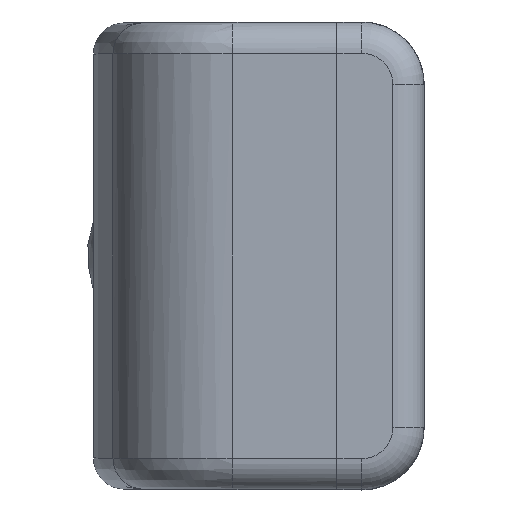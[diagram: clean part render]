
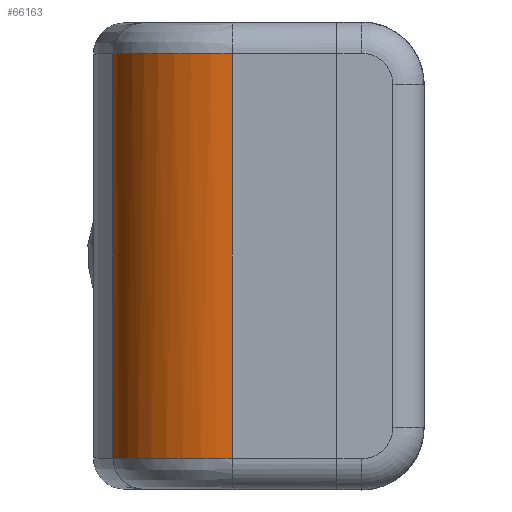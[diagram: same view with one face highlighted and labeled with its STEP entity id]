
A CAD part, left-side view. The second image highlights one B-rep face of the part: STEP entity #66163.
In plain terms, the highlighted cylindrical face has radius 8 mm (diameter 16 mm), a partial arc.
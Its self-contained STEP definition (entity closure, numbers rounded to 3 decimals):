
#1626 = LINE ( 'NONE', #115802, #8653 ) ;
#7479 = CYLINDRICAL_SURFACE ( 'NONE', #94989, 8. ) ;
#8653 = VECTOR ( 'NONE', #37461, 1000. ) ;
#12700 = ORIENTED_EDGE ( 'NONE', *, *, #106317, .F. ) ;
#21630 = CARTESIAN_POINT ( 'NONE',  ( 49.022, -4.972, 12.967 ) ) ;
#23256 = EDGE_CURVE ( 'NONE', #55759, #135902, #36760, .T. ) ;
#26509 = DIRECTION ( 'NONE',  ( -1., 0., 0. ) ) ;
#32460 = CARTESIAN_POINT ( 'NONE',  ( 49.125, -8.9, -12.977 ) ) ;
#32870 = CARTESIAN_POINT ( 'NONE',  ( 46.476, -1.98, 12.959 ) ) ;
#35127 = ORIENTED_EDGE ( 'NONE', *, *, #23256, .F. ) ;
#36760 = LINE ( 'NONE', #96932, #126089 ) ;
#37461 = DIRECTION ( 'NONE',  ( 0., 0., 1. ) ) ;
#42674 = EDGE_CURVE ( 'NONE', #55759, #103330, #101048, .T. ) ;
#43741 = CARTESIAN_POINT ( 'NONE',  ( 46.476, -1.98, -12.959 ) ) ;
#55377 = CARTESIAN_POINT ( 'NONE',  ( 49.125, -8.9, 12.977 ) ) ;
#55759 = VERTEX_POINT ( 'NONE', #69497 ) ;
#60230 = DIRECTION ( 'NONE',  ( 0., 0., -1. ) ) ;
#63625 = DIRECTION ( 'NONE',  ( 0., 0., -1. ) ) ;
#66163 = ADVANCED_FACE ( 'NONE', ( #70547 ), #7479, .T. ) ;
#69497 = CARTESIAN_POINT ( 'NONE',  ( 42.615, -1.249, 12.957 ) ) ;
#70547 = FACE_OUTER_BOUND ( 'NONE', #105934, .T. ) ;
#70979 = ORIENTED_EDGE ( 'NONE', *, *, #42674, .T. ) ;
#72409 = VERTEX_POINT ( 'NONE', #143508 ) ;
#74529 =( BOUNDED_CURVE ( )  B_SPLINE_CURVE ( 3, ( #32460, #110863, #43741, #122056 ),
 .UNSPECIFIED., .F., .F. ) 
 B_SPLINE_CURVE_WITH_KNOTS ( ( 4, 4 ),
 ( 1.597, 2.955 ),
 .UNSPECIFIED. ) 
 CURVE ( )  GEOMETRIC_REPRESENTATION_ITEM ( )  RATIONAL_B_SPLINE_CURVE ( ( 1., 0.852, 0.852, 1. ) ) 
 REPRESENTATION_ITEM ( '' )  );
#86528 = CARTESIAN_POINT ( 'NONE',  ( 49.125, -8.9, 12.977 ) ) ;
#89034 = EDGE_CURVE ( 'NONE', #72409, #135902, #74529, .T. ) ;
#94989 = AXIS2_PLACEMENT_3D ( 'NONE', #104822, #60230, #26509 ) ;
#96892 = CARTESIAN_POINT ( 'NONE',  ( 42.615, -1.249, -12.957 ) ) ;
#96932 = CARTESIAN_POINT ( 'NONE',  ( 42.615, -1.249, 15. ) ) ;
#101048 =( BOUNDED_CURVE ( )  B_SPLINE_CURVE ( 3, ( #122472, #32870, #21630, #55377 ),
 .UNSPECIFIED., .F., .F. ) 
 B_SPLINE_CURVE_WITH_KNOTS ( ( 4, 4 ),
 ( 0.187, 1.545 ),
 .UNSPECIFIED. ) 
 CURVE ( )  GEOMETRIC_REPRESENTATION_ITEM ( )  RATIONAL_B_SPLINE_CURVE ( ( 1., 0.852, 0.852, 1. ) ) 
 REPRESENTATION_ITEM ( '' )  );
#103330 = VERTEX_POINT ( 'NONE', #86528 ) ;
#104822 = CARTESIAN_POINT ( 'NONE',  ( 41.127, -9.109, 15. ) ) ;
#105461 = ORIENTED_EDGE ( 'NONE', *, *, #89034, .T. ) ;
#105934 = EDGE_LOOP ( 'NONE', ( #12700, #105461, #35127, #70979 ) ) ;
#106317 = EDGE_CURVE ( 'NONE', #72409, #103330, #1626, .T. ) ;
#110863 = CARTESIAN_POINT ( 'NONE',  ( 49.022, -4.972, -12.967 ) ) ;
#115802 = CARTESIAN_POINT ( 'NONE',  ( 49.125, -8.9, -15. ) ) ;
#122056 = CARTESIAN_POINT ( 'NONE',  ( 42.615, -1.249, -12.957 ) ) ;
#122472 = CARTESIAN_POINT ( 'NONE',  ( 42.615, -1.249, 12.957 ) ) ;
#126089 = VECTOR ( 'NONE', #63625, 1000. ) ;
#135902 = VERTEX_POINT ( 'NONE', #96892 ) ;
#143508 = CARTESIAN_POINT ( 'NONE',  ( 49.125, -8.9, -12.977 ) ) ;
